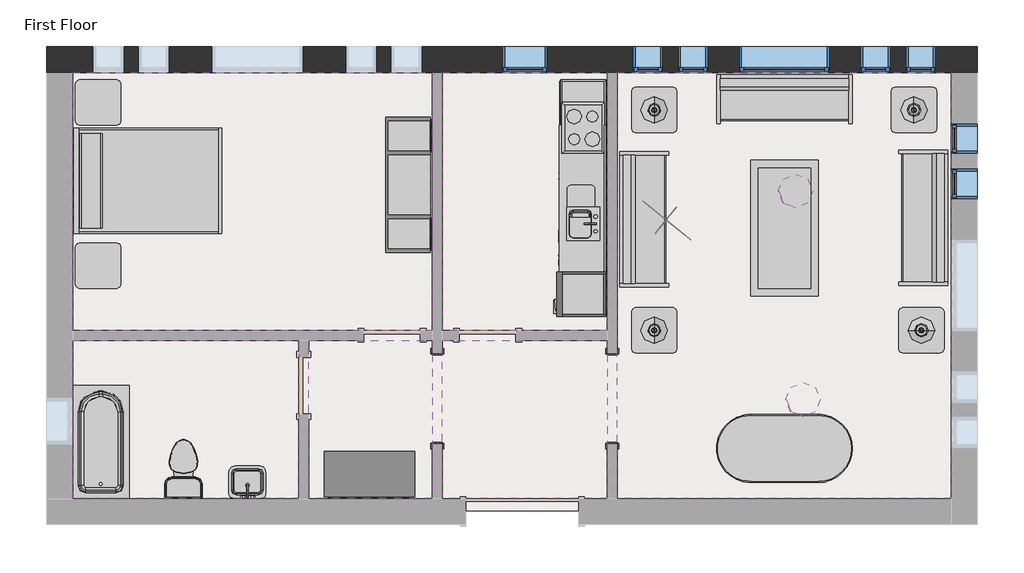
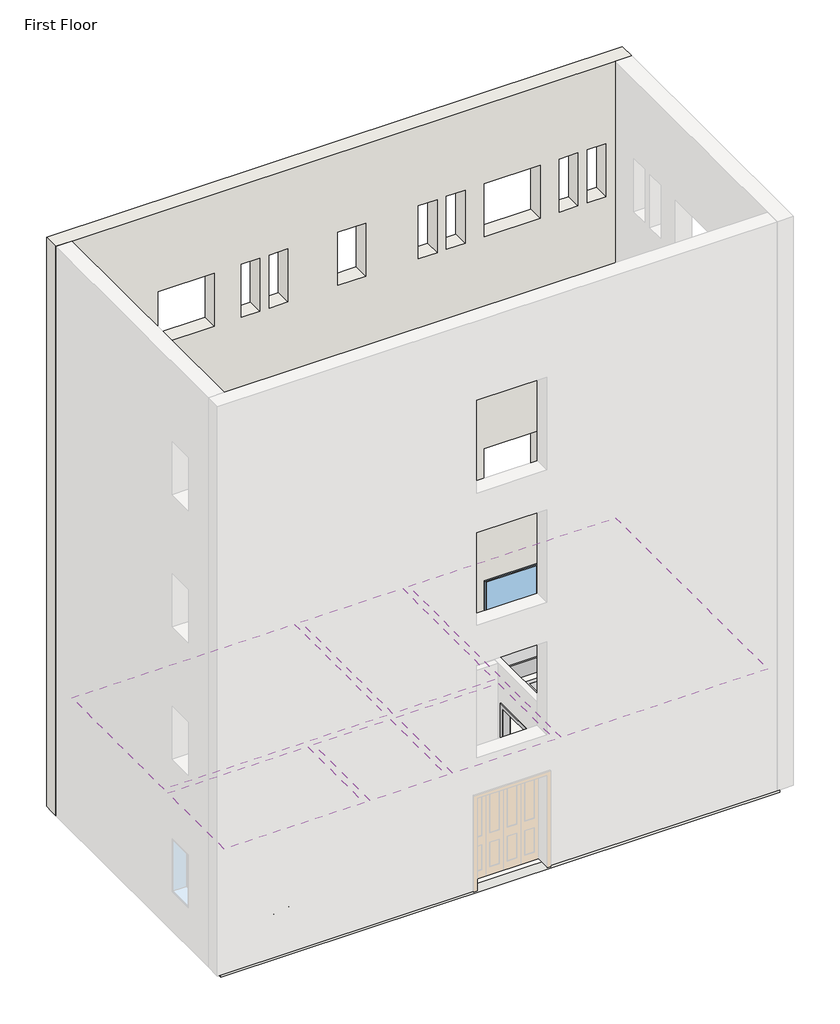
# One storey, part 2 of 2: 15 furniture elements, 8 windows, 7 proxies, 6 coverings, 6 light fixtures, 4 flow terminals, 1 slab, 1 wall.
"""IFC4 building model written with IfcOpenShell, lengths in millimetres."""

from ifc_helpers import new_model, si_unit, frame, origin, place, context, project, spatial, polyline, outline, extrude, faceted_brep, transform, mapped, element, save
from components import m_cook_top_4_unit2_0615_x_500mm_249f3515, m_dishwasher_610_x_610_x_875mm_54ecfc4c, m_kitchenette_medium_2591_ce898a11, m_passage_opening_cased_1220_x_2134mm_87a8d9c2, m_rpc_female_c3b5a3e1, m_refrigerator_600_x_660mm_a466bf94, m_sink_kitchen_island_450_x_450mm_f969cf2d, m_sink_vanity_square_500_x_440mm_1e229b74, m_toilet_domestic_3d_m_toilet_domestic_3d_5cb52bd4, m_toilet_domestic_3d_m_toilet_domestic_3d_183bbd19, m_tub_rectangular_3d_m_tub_rectangular_3d_3a981ad5, m_bed_shaker_1422_x_1981mm_double_096e7f55, m_counter_top_w_sink_hole_600mm_depth_5db41418, m_dresser_1220_x_1525_x_0610mm_18e1f140, m_entertainment_center_1830_x_1830_x_0610mm_f77a9b93, m_sofa_1830mm_58d08fc1, m_table_coffee_0915_x_1830_x_0457mm_134cd960, m_table_dining_oval_0915_x_1830mm_a7cfbe21, m_table_end_cb6ea12e, m_pendant_light_disk_100w_120v_a7a090af, m_table_lamp_standard_60w_120v_6e8cd8b1, m_fixed_0406_x_1220mm_57fee329, m_fixed_0406_x_1220mm_85c28f40, m_fixed_0610_x_1220mm_2c28ef1d, m_fixed_1220_x_1220mm_e08ff7af

model = new_model("IFC4")

# Units and contexts
model_context = context("Model", 3, world=origin())
ifc_project = project(units=[si_unit("LENGTHUNIT", "METRE", prefix="MILLI")], contexts=[model_context])

# Site, building, storey
site = spatial("IfcSite", under=ifc_project)
building = spatial("IfcBuilding", under=site)
storey = spatial("IfcBuildingStorey", under=building, Name="First Floor", Elevation=0.0)

# Proxies
placement = place(None, origin())
m_cook_top_4_unit2_0615_x_500mm_shape = m_cook_top_4_unit2_0615_x_500mm_249f3515(model_context)
element("IfcBuildingElementProxy", 1, Name="M_Cook Top-4 Unit2 : 0615 x 500mm", ObjectType="M_Cook Top-4 Unit2 : 0615 x 500mm", at=placement, inside=storey, context=model_context, shape_type="MappedRepresentation", body=[
    mapped(m_cook_top_4_unit2_0615_x_500mm_shape, transform((-8054.9916203, 1658.804661, 0.0), x_axis=(0.0, -1.0, 0.0), y_axis=(1.0, 0.0, 0.0), z_axis=(0.0, 0.0, 1.0))),
])
m_dishwasher_610_x_610_x_875mm_shape = m_dishwasher_610_x_610_x_875mm_54ecfc4c(model_context)
element("IfcBuildingElementProxy", 2, Name="M_Dishwasher : 610 x 610 x 875mm", ObjectType="M_Dishwasher : 610 x 610 x 875mm", at=placement, inside=storey, context=model_context, shape_type="MappedRepresentation", body=[
    mapped(m_dishwasher_610_x_610_x_875mm_shape, transform((-8321.6411851, 403.0721295, 0.0), x_axis=(0.0, -1.0, 0.0), y_axis=(1.0, 0.0, 0.0), z_axis=(0.0, 0.0, 1.0))),
])
m_kitchenette_medium_2591_shape = m_kitchenette_medium_2591_ce898a11(model_context)
element("IfcBuildingElementProxy", 3, Name="M_Kitchenette - Medium : 2591", ObjectType="M_Kitchenette - Medium : 2591", at=placement, inside=storey, context=model_context, shape_type="MappedRepresentation", body=[
    mapped(m_kitchenette_medium_2591_shape, transform((-7749.9916203, 1029.7923659, 0.0), x_axis=(0.0, -1.0, 0.0), y_axis=(1.0, 0.0, 0.0), z_axis=(0.0, 0.0, 1.0))),
])
m_passage_opening_cased_1220_x_2134mm_shape = m_passage_opening_cased_1220_x_2134mm_87a8d9c2(model_context)
element("IfcBuildingElementProxy", 4, Name="M_Passage Opening-Cased : 1220 x 2134mm", ObjectType="M_Passage Opening-Cased : 1220 x 2134mm", at=placement, inside=storey, context=model_context, shape_type="MappedRepresentation", body=[
    mapped(m_passage_opening_cased_1220_x_2134mm_shape, transform((-7665.3416203, -1982.6925047, 0.0), x_axis=(0.0, 1.0, 0.0), y_axis=(-1.0, 0.0, 0.0), z_axis=(0.0, 0.0, 1.0))),
])
element("IfcBuildingElementProxy", 5, Name="M_Passage Opening-Cased : 1220 x 2134mm", ObjectType="M_Passage Opening-Cased : 1220 x 2134mm", at=placement, inside=storey, context=model_context, shape_type="MappedRepresentation", body=[
    mapped(m_passage_opening_cased_1220_x_2134mm_shape, transform((-10019.0916203, -1999.0698181, 0.0), x_axis=(0.0, -1.0, 0.0), y_axis=(1.0, 0.0, 0.0), z_axis=(0.0, 0.0, 1.0))),
])
m_rpc_female_shape = m_rpc_female_c3b5a3e1(model_context)
element("IfcBuildingElementProxy", 6, Name="M_RPC Female : Cynthia", ObjectType="M_RPC Female : Cynthia", at=placement, inside=storey, context=model_context, shape_type="MappedRepresentation", body=[
    mapped(m_rpc_female_shape, transform((-6817.8815242, 314.0517006, 0.0), x_axis=(-0.6293203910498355, -0.7771459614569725, 0.0), y_axis=(0.7771459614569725, -0.6293203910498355, 0.0), z_axis=(0.0, 0.0, 1.0))),
])
m_refrigerator_600_x_660mm_shape = m_refrigerator_600_x_660mm_a466bf94(model_context)
element("IfcBuildingElementProxy", 7, Name="M_Refrigerator : 600 x 660mm", ObjectType="M_Refrigerator : 600 x 660mm", at=placement, inside=storey, context=model_context, shape_type="MappedRepresentation", body=[
    mapped(m_refrigerator_600_x_660mm_shape, transform((-8046.2067105, -638.2464817, 0.0), x_axis=(0.0, -1.0, 0.0), y_axis=(1.0, 0.0, 0.0), z_axis=(0.0, 0.0, 1.0))),
])

# Coverings
element("IfcCovering", 8, ObjectType="GWB on Metal stud", at=placement, inside=storey, context=model_context, shape_type="SweptSolid", body=[
    extrude(outline(polyline([(-14935.3416203, 2406.1188386), (-10086.8416203, 2406.1188386), (-10086.8416203, -1070.3811614), (-14935.3416203, -1070.3811614), (-14935.3416203, 2406.1188386)])), frame((0.0, 0.0, 2590.0), z_axis=(0.0, 0.0, 1.0), x_axis=(1.0, 0.0, 0.0)), (0.0, 0.0, 1.0), 57.0),
])
element("IfcCovering", 9, ObjectType="GWB on Metal stud", at=placement, inside=storey, context=model_context, shape_type="SweptSolid", body=[
    extrude(outline(polyline([(-9951.3416203, -1070.3811614), (-9951.3416203, 2406.1188386), (-7733.0916203, 2406.1188386), (-7733.0916203, -1070.3811614), (-9951.3416203, -1070.3811614)])), frame((0.0, 0.0, 2590.0), z_axis=(0.0, 0.0, 1.0), x_axis=(1.0, 0.0, 0.0)), (0.0, 0.0, 1.0), 57.0),
])
element("IfcCovering", 10, ObjectType="GWB on Metal stud", at=placement, inside=storey, context=model_context, shape_type="SweptSolid", body=[
    extrude(outline(polyline([(-7597.5916203, -3339.8811614), (-7597.5916203, 2406.1188386), (-3093.3416203, 2406.1188386), (-3093.3416203, -3339.8811614), (-7597.5916203, -3339.8811614)])), frame((0.0, 0.0, 2590.0), z_axis=(0.0, 0.0, 1.0), x_axis=(1.0, 0.0, 0.0)), (0.0, 0.0, 1.0), 57.0),
])
element("IfcCovering", 11, ObjectType="GWB on Metal stud", at=placement, inside=storey, context=model_context, shape_type="SweptSolid", body=[
    extrude(outline(polyline([(-7733.0916203, -3339.8811614), (-9951.3416203, -3339.8811614), (-9951.3416203, -1205.8811614), (-7733.0916203, -1205.8811614), (-7733.0916203, -3339.8811614)])), frame((0.0, 0.0, 2590.0), z_axis=(0.0, 0.0, 1.0), x_axis=(1.0, 0.0, 0.0)), (0.0, 0.0, 1.0), 57.0),
])
element("IfcCovering", 12, ObjectType="GWB on Metal stud", at=placement, inside=storey, context=model_context, shape_type="SweptSolid", body=[
    extrude(outline(polyline([(-11887.3416203, -1205.8811614), (-11887.3416203, -3339.8811614), (-14935.3416203, -3339.8811614), (-14935.3416203, -1205.8811614), (-11887.3416203, -1205.8811614)])), frame((0.0, 0.0, 2590.0), z_axis=(0.0, 0.0, 1.0), x_axis=(1.0, 0.0, 0.0)), (0.0, 0.0, 1.0), 57.0),
])
element("IfcCovering", 13, ObjectType="GWB on Metal stud", at=placement, inside=storey, context=model_context, shape_type="SweptSolid", body=[
    extrude(outline(polyline([(-10086.8416203, -3339.8811614), (-11751.8416203, -3339.8811614), (-11751.8416203, -1205.8811614), (-10086.8416203, -1205.8811614), (-10086.8416203, -3339.8811614)])), frame((0.0, 0.0, 2590.0), z_axis=(0.0, 0.0, 1.0), x_axis=(1.0, 0.0, 0.0)), (0.0, 0.0, 1.0), 57.0),
])

# Flow terminals
m_sink_kitchen_island_450_x_450mm_shape = m_sink_kitchen_island_450_x_450mm_f969cf2d(model_context)
element("IfcFlowTerminal", 14, ObjectType="M_Sink Kitchen-Island : 450 x 450mm", at=placement, inside=storey, context=model_context, shape_type="MappedRepresentation", body=[
    mapped(m_sink_kitchen_island_450_x_450mm_shape, transform((-8057.3370214, 378.9939015, 0.0), x_axis=(0.0, -1.0, 0.0), y_axis=(1.0, 0.0, 0.0), z_axis=(0.0, 0.0, 1.0))),
])
m_sink_vanity_square_500_x_440mm_shape = m_sink_vanity_square_500_x_440mm_1e229b74(model_context)
element("IfcFlowTerminal", 15, ObjectType="M_Sink Vanity-Square : 500 x 440mm", at=placement, inside=storey, context=model_context, shape_type="MappedRepresentation", body=[
    mapped(m_sink_vanity_square_500_x_440mm_shape, transform((-12563.5523798, -3158.1107603, 0.0), x_axis=(-1.0, 0.0, 0.0), y_axis=(0.0, -1.0, 0.0), z_axis=(0.0, 0.0, 1.0))),
])
m_toilet_domestic_3d_m_toilet_domestic_3d_shape = m_toilet_domestic_3d_m_toilet_domestic_3d_5cb52bd4(model_context)
m_toilet_domestic_3d_m_toilet_domestic_3d_2_shape = m_toilet_domestic_3d_m_toilet_domestic_3d_183bbd19(model_context)
element("IfcFlowTerminal", 16, ObjectType="M_Toilet-Domestic-3D : M_Toilet-Domestic-3D", at=placement, inside=storey, context=model_context, shape_type="MappedRepresentation", body=[
    mapped(m_toilet_domestic_3d_m_toilet_domestic_3d_shape, transform((-13440.7376477, -2845.185134, 0.0), x_axis=(-1.0000000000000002, 0.0, 0.0), y_axis=(0.0, -1.0000000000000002, 0.0), z_axis=(0.0, 0.0, 1.0))),
    mapped(m_toilet_domestic_3d_m_toilet_domestic_3d_2_shape, transform((-13440.7376477, -2845.185134, 0.0), x_axis=(-1.0000000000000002, 0.0, 0.0), y_axis=(0.0, -1.0000000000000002, 0.0), z_axis=(0.0, 0.0, 1.0))),
])
m_tub_rectangular_3d_m_tub_rectangular_3d_shape = m_tub_rectangular_3d_m_tub_rectangular_3d_3a981ad5(model_context)
element("IfcFlowTerminal", 17, ObjectType="M_Tub-Rectangular-3D : M_Tub-Rectangular-3D", at=placement, inside=storey, context=model_context, shape_type="MappedRepresentation", body=[
    mapped(m_tub_rectangular_3d_m_tub_rectangular_3d_shape, transform((-15110.3416203, -2229.2781927, 0.0), x_axis=(0.0, 1.0, 0.0), y_axis=(-1.0, 0.0, 0.0), z_axis=(0.0, 0.0, 1.0))),
])

# Furniture
m_bed_shaker_1422_x_1981mm_double_shape = m_bed_shaker_1422_x_1981mm_double_096e7f55(model_context)
element("IfcFurniture", 18, ObjectType="M_Bed-Shaker : 1422 x 1981mm - Double", at=placement, inside=storey, context=model_context, shape_type="MappedRepresentation", body=[
    mapped(m_bed_shaker_1422_x_1981mm_double_shape, transform((-14905.3416203, 963.9688386, 0.0), x_axis=(0.0, 1.0000000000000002, 0.0), y_axis=(-1.0000000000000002, 0.0, 0.0), z_axis=(0.0, 0.0, 1.0))),
])
m_counter_top_w_sink_hole_600mm_depth_shape = m_counter_top_w_sink_hole_600mm_depth_5db41418(model_context)
element("IfcFurniture", 19, ObjectType="M_Counter Top w Sink Hole : 600mm Depth", at=placement, inside=storey, context=model_context, shape_type="MappedRepresentation", body=[
    mapped(m_counter_top_w_sink_hole_600mm_depth_shape, transform((-7749.9916203, 496.5923659, 0.0), x_axis=(0.0, -1.0, 0.0), y_axis=(1.0, 0.0, 0.0), z_axis=(0.0, 0.0, 1.0))),
])
m_dresser_1220_x_1525_x_0610mm_shape = m_dresser_1220_x_1525_x_0610mm_18e1f140(model_context)
element("IfcFurniture", 20, ObjectType="M_Dresser : 1220 x 1525 x 0610mm", at=placement, inside=storey, context=model_context, shape_type="MappedRepresentation", body=[
    mapped(m_dresser_1220_x_1525_x_0610mm_shape, transform((-10667.6483605, -2647.7182073, 0.0), x_axis=(1.0, 0.0, 0.0), y_axis=(0.0, 1.0, 0.0), z_axis=(0.0, 0.0, 1.0))),
])
m_entertainment_center_1830_x_1830_x_0610mm_shape = m_entertainment_center_1830_x_1830_x_0610mm_f77a9b93(model_context)
element("IfcFurniture", 21, ObjectType="M_Entertainment center : 1830 x 1830 x 0610mm", at=placement, inside=storey, context=model_context, shape_type="MappedRepresentation", body=[
    mapped(m_entertainment_center_1830_x_1830_x_0610mm_shape, transform((-10818.2416203, 891.1188386, 0.0), x_axis=(0.0, 1.0, 0.0), y_axis=(-1.0, 0.0, 0.0), z_axis=(0.0, 0.0, 1.0))),
])
m_sofa_1830mm_shape = m_sofa_1830mm_58d08fc1(model_context)
element("IfcFurniture", 22, ObjectType="M_Sofa : 1830mm", at=placement, inside=storey, context=model_context, shape_type="MappedRepresentation", body=[
    mapped(m_sofa_1830mm_shape, transform((-5413.7121121, 1899.9647403, 0.0), x_axis=(1.0, 0.0, 0.0), y_axis=(0.0, 1.0, 0.0), z_axis=(0.0, 0.0, 1.0))),
])
element("IfcFurniture", 23, ObjectType="M_Sofa : 1830mm", at=placement, inside=storey, context=model_context, shape_type="MappedRepresentation", body=[
    mapped(m_sofa_1830mm_shape, transform((-3617.1736471, 517.2688343, 0.0), x_axis=(0.0, -1.0, 0.0), y_axis=(1.0, 0.0, 0.0), z_axis=(0.0, 0.0, 1.0))),
])
element("IfcFurniture", 24, ObjectType="M_Sofa : 1830mm", at=placement, inside=storey, context=model_context, shape_type="MappedRepresentation", body=[
    mapped(m_sofa_1830mm_shape, transform((-7088.437522, 355.7483468, 0.0), x_axis=(0.0, 1.0, 0.0), y_axis=(-1.0, 0.0, 0.0), z_axis=(0.0, 0.0, 1.0))),
])
m_table_coffee_0915_x_1830_x_0457mm_shape = m_table_coffee_0915_x_1830_x_0457mm_134cd960(model_context)
element("IfcFurniture", 25, ObjectType="M_Table-Coffee : 0915 x 1830 x 0457mm", at=placement, inside=storey, context=model_context, shape_type="MappedRepresentation", body=[
    mapped(m_table_coffee_0915_x_1830_x_0457mm_shape, transform((-5248.1305425, 287.8530719, 0.0), x_axis=(0.0, 1.0, 0.0), y_axis=(-1.0, 0.0, 0.0), z_axis=(0.0, 0.0, 1.0))),
])
m_table_dining_oval_0915_x_1830mm_shape = m_table_dining_oval_0915_x_1830mm_a7cfbe21(model_context)
element("IfcFurniture", 26, ObjectType="M_Table-Dining Oval : 0915 x 1830mm", at=placement, inside=storey, context=model_context, shape_type="MappedRepresentation", body=[
    mapped(m_table_dining_oval_0915_x_1830mm_shape, transform((-4941.5219482, -2305.2828007, 0.0), x_axis=(1.0, 0.0, 0.0), y_axis=(0.0, 1.0, 0.0), z_axis=(0.0, 0.0, 1.0))),
])
m_table_end_shape = m_table_end_cb6ea12e(model_context)
element("IfcFurniture", 27, ObjectType="M_Table-End : 0610 x 0160mm altered height", at=placement, inside=storey, context=model_context, shape_type="MappedRepresentation", body=[
    mapped(m_table_end_shape, transform((-7407.0752506, 1748.7188386, 0.0), x_axis=(1.0, 0.0, 0.0), y_axis=(0.0, 1.0, 0.0), z_axis=(0.0, 0.0, 1.0))),
])
element("IfcFurniture", 28, ObjectType="M_Table-End : 0610 x 0160mm altered height", at=placement, inside=storey, context=model_context, shape_type="MappedRepresentation", body=[
    mapped(m_table_end_shape, transform((-3907.0752506, 1748.7188386, 0.0), x_axis=(1.0, 0.0, 0.0), y_axis=(0.0, 1.0, 0.0), z_axis=(0.0, 0.0, 1.0))),
])
element("IfcFurniture", 29, ObjectType="M_Table-End : 0610 x 0160mm altered height", at=placement, inside=storey, context=model_context, shape_type="MappedRepresentation", body=[
    mapped(m_table_end_shape, transform((-3807.0752506, -1222.7811614, 0.0), x_axis=(1.0, 0.0, 0.0), y_axis=(0.0, 1.0, 0.0), z_axis=(0.0, 0.0, 1.0))),
])
element("IfcFurniture", 30, ObjectType="M_Table-End : 0610 x 0160mm altered height", at=placement, inside=storey, context=model_context, shape_type="MappedRepresentation", body=[
    mapped(m_table_end_shape, transform((-7407.0752506, -1222.7811614, 0.0), x_axis=(1.0, 0.0, 0.0), y_axis=(0.0, 1.0, 0.0), z_axis=(0.0, 0.0, 1.0))),
])
element("IfcFurniture", 31, ObjectType="M_Table-End : 0610 x 0160mm altered height", at=placement, inside=storey, context=model_context, shape_type="MappedRepresentation", body=[
    mapped(m_table_end_shape, transform((-14899.0752506, -351.2811614, 0.0), x_axis=(1.0, 0.0, 0.0), y_axis=(0.0, 1.0, 0.0), z_axis=(0.0, 0.0, 1.0))),
])
element("IfcFurniture", 32, ObjectType="M_Table-End : 0610 x 0160mm altered height", at=placement, inside=storey, context=model_context, shape_type="MappedRepresentation", body=[
    mapped(m_table_end_shape, transform((-14899.0752506, 1848.7188386, 0.0), x_axis=(1.0, 0.0, 0.0), y_axis=(0.0, 1.0, 0.0), z_axis=(0.0, 0.0, 1.0))),
])

# Light fixtures
m_pendant_light_disk_100w_120v_shape = m_pendant_light_disk_100w_120v_a7a090af(model_context)
element("IfcLightFixture", 33, ObjectType="M_Pendant Light - Disk : 100W - 120V", at=placement, inside=storey, context=model_context, shape_type="MappedRepresentation", body=[
    mapped(m_pendant_light_disk_100w_120v_shape, transform((-5193.3416203, 806.1188386, 151.5999938), x_axis=(1.0, 0.0, 0.0), y_axis=(0.0, 1.0, 0.0), z_axis=(0.0, 0.0, 1.0))),
])
element("IfcLightFixture", 34, ObjectType="M_Pendant Light - Disk : 100W - 120V", at=placement, inside=storey, context=model_context, shape_type="MappedRepresentation", body=[
    mapped(m_pendant_light_disk_100w_120v_shape, transform((-5093.3416203, -2005.8811614, 151.5999938), x_axis=(1.0, 0.0, 0.0), y_axis=(0.0, 1.0, 0.0), z_axis=(0.0, 0.0, 1.0))),
])
m_table_lamp_standard_60w_120v_shape = m_table_lamp_standard_60w_120v_6e8cd8b1(model_context)
element("IfcLightFixture", 35, ObjectType="M_Table Lamp - Standard : 60W - 120V", at=placement, inside=storey, context=model_context, shape_type="MappedRepresentation", body=[
    mapped(m_table_lamp_standard_60w_120v_shape, transform((-3498.3416203, -1070.3811614, 381.0), x_axis=(1.0, 0.0, 0.0), y_axis=(0.0, 1.0, 0.0), z_axis=(0.0, 0.0, 1.0))),
])
element("IfcLightFixture", 36, ObjectType="M_Table Lamp - Standard : 60W - 120V", at=placement, inside=storey, context=model_context, shape_type="MappedRepresentation", body=[
    mapped(m_table_lamp_standard_60w_120v_shape, transform((-3598.3416203, 1901.1188386, 381.0), x_axis=(0.0, 1.0000000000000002, 0.0), y_axis=(-1.0000000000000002, 0.0, 0.0), z_axis=(0.0, 0.0, 1.0))),
])
element("IfcLightFixture", 37, ObjectType="M_Table Lamp - Standard : 60W - 120V", at=placement, inside=storey, context=model_context, shape_type="MappedRepresentation", body=[
    mapped(m_table_lamp_standard_60w_120v_shape, transform((-7098.3416203, 1901.1188386, 381.0), x_axis=(0.0, 1.0000000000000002, 0.0), y_axis=(-1.0000000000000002, 0.0, 0.0), z_axis=(0.0, 0.0, 1.0))),
])
element("IfcLightFixture", 38, ObjectType="M_Table Lamp - Standard : 60W - 120V", at=placement, inside=storey, context=model_context, shape_type="MappedRepresentation", body=[
    mapped(m_table_lamp_standard_60w_120v_shape, transform((-7098.3416203, -1070.3811614, 381.0), x_axis=(0.0, 1.0000000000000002, 0.0), y_axis=(-1.0000000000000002, 0.0, 0.0), z_axis=(0.0, 0.0, 1.0))),
])

# Slab
element("IfcSlab", 39, ObjectType="160mm Concrete With 50mm Metal Deck", at=placement, inside=storey, context=model_context, shape_type="SweptSolid", body=[
    extrude(outline(polyline([(-2928.3416203, 2571.1188386), (-2928.3416203, -3504.8811614), (-15100.3416203, -3504.8811614), (-15100.3416203, 2571.1188386), (-2928.3416203, 2571.1188386)])), frame((0.0, 0.0, -210.0), z_axis=(0.0, 0.0, 1.0), x_axis=(1.0, 0.0, 0.0)), (0.0, 0.0, 1.0), 210.0),
])

# Wall
element("IfcWall", 40, ObjectType="Exterior - Brick on Mtl. Stud", at=placement, inside=storey, context=model_context, shape_type="Brep", body=[
    faceted_brep([(-15285.3416203, 2406.1188386, 0.0), (-15100.3416203, 2406.1188386, 0.0), (-14935.3416203, 2406.1188386, 0.0), (-10086.8416203, 2406.1188386, 0.0), (-9951.3416203, 2406.1188386, 0.0), (-7733.0916203, 2406.1188386, 0.0), (-7597.5916203, 2406.1188386, 0.0), (-3093.3416203, 2406.1188386, 0.0), (-2928.3416203, 2406.1188386, 0.0), (-2743.3416203, 2406.1188386, 0.0), (-2743.3416203, 2406.1188386, 13107.0), (-3093.3416203, 2406.1188386, 13107.0), (-14935.3416203, 2406.1188386, 13107.0), (-15285.3416203, 2406.1188386, 13107.0), (-8537.1916203, 2406.1188386, 915.0), (-9147.1916203, 2406.1188386, 915.0), (-9147.1916203, 2406.1188386, 2135.0), (-8537.1916203, 2406.1188386, 2135.0), (-11833.3416203, 2406.1188386, 915.0), (-13053.3416203, 2406.1188386, 915.0), (-13053.3416203, 2406.1188386, 2135.0), (-11833.3416203, 2406.1188386, 2135.0), (-4735.4666203, 2406.1188386, 915.0), (-5955.4666203, 2406.1188386, 915.0), (-5955.4666203, 2406.1188386, 2135.0), (-4735.4666203, 2406.1188386, 2135.0), (-14247.3416203, 2406.1188386, 915.0), (-14653.3416203, 2406.1188386, 915.0), (-14653.3416203, 2406.1188386, 2135.0), (-14247.3416203, 2406.1188386, 2135.0), (-13637.3416203, 2406.1188386, 915.0), (-14043.3416203, 2406.1188386, 915.0), (-14043.3416203, 2406.1188386, 2135.0), (-13637.3416203, 2406.1188386, 2135.0), (-11249.3416203, 2406.1188386, 915.0), (-11249.3416203, 2406.1188386, 2135.0), (-10843.3416203, 2406.1188386, 2135.0), (-10843.3416203, 2406.1188386, 915.0), (-10639.3416203, 2406.1188386, 915.0), (-10639.3416203, 2406.1188386, 2135.0), (-10233.3416203, 2406.1188386, 2135.0), (-10233.3416203, 2406.1188386, 915.0), (-6370.3416203, 2406.1188386, 915.0), (-6776.3416203, 2406.1188386, 915.0), (-6776.3416203, 2406.1188386, 2135.0), (-6370.3416203, 2406.1188386, 2135.0), (-6980.3416203, 2406.1188386, 915.0), (-7386.3416203, 2406.1188386, 915.0), (-7386.3416203, 2406.1188386, 2135.0), (-6980.3416203, 2406.1188386, 2135.0), (-4320.5916203, 2406.1188386, 915.0), (-4320.5916203, 2406.1188386, 2135.0), (-3914.5916203, 2406.1188386, 2135.0), (-3914.5916203, 2406.1188386, 915.0), (-3710.5916203, 2406.1188386, 915.0), (-3710.5916203, 2406.1188386, 2135.0), (-3304.5916203, 2406.1188386, 2135.0), (-3304.5916203, 2406.1188386, 915.0), (-4320.5916203, 2406.1188386, 10059.0), (-4320.5916203, 2406.1188386, 11279.0), (-3914.5916203, 2406.1188386, 11279.0), (-3914.5916203, 2406.1188386, 10059.0), (-3710.5916203, 2406.1188386, 10059.0), (-3710.5916203, 2406.1188386, 11279.0), (-3304.5916203, 2406.1188386, 11279.0), (-3304.5916203, 2406.1188386, 10059.0), (-6370.3416203, 2406.1188386, 10059.0), (-6776.3416203, 2406.1188386, 10059.0), (-6776.3416203, 2406.1188386, 11279.0), (-6370.3416203, 2406.1188386, 11279.0), (-6980.3416203, 2406.1188386, 10059.0), (-7386.3416203, 2406.1188386, 10059.0), (-7386.3416203, 2406.1188386, 11279.0), (-6980.3416203, 2406.1188386, 11279.0), (-11249.3416203, 2406.1188386, 10059.0), (-11249.3416203, 2406.1188386, 11279.0), (-10843.3416203, 2406.1188386, 11279.0), (-10843.3416203, 2406.1188386, 10059.0), (-10639.3416203, 2406.1188386, 10059.0), (-10639.3416203, 2406.1188386, 11279.0), (-10233.3416203, 2406.1188386, 11279.0), (-10233.3416203, 2406.1188386, 10059.0), (-13637.3416203, 2406.1188386, 10059.0), (-14043.3416203, 2406.1188386, 10059.0), (-14043.3416203, 2406.1188386, 11279.0), (-13637.3416203, 2406.1188386, 11279.0), (-14247.3416203, 2406.1188386, 10059.0), (-14653.3416203, 2406.1188386, 10059.0), (-14653.3416203, 2406.1188386, 11279.0), (-14247.3416203, 2406.1188386, 11279.0), (-4735.4666203, 2406.1188386, 10059.0), (-5955.4666203, 2406.1188386, 10059.0), (-5955.4666203, 2406.1188386, 11279.0), (-4735.4666203, 2406.1188386, 11279.0), (-11833.3416203, 2406.1188386, 10059.0), (-13053.3416203, 2406.1188386, 10059.0), (-13053.3416203, 2406.1188386, 11279.0), (-11833.3416203, 2406.1188386, 11279.0), (-8537.1916203, 2406.1188386, 10059.0), (-9147.1916203, 2406.1188386, 10059.0), (-9147.1916203, 2406.1188386, 11279.0), (-8537.1916203, 2406.1188386, 11279.0), (-4320.5916203, 2406.1188386, 3963.0), (-4320.5916203, 2406.1188386, 5183.0), (-3914.5916203, 2406.1188386, 5183.0), (-3914.5916203, 2406.1188386, 3963.0), (-3710.5916203, 2406.1188386, 3963.0), (-3710.5916203, 2406.1188386, 5183.0), (-3304.5916203, 2406.1188386, 5183.0), (-3304.5916203, 2406.1188386, 3963.0), (-6370.3416203, 2406.1188386, 3963.0), (-6776.3416203, 2406.1188386, 3963.0), (-6776.3416203, 2406.1188386, 5183.0), (-6370.3416203, 2406.1188386, 5183.0), (-6980.3416203, 2406.1188386, 3963.0), (-7386.3416203, 2406.1188386, 3963.0), (-7386.3416203, 2406.1188386, 5183.0), (-6980.3416203, 2406.1188386, 5183.0), (-11249.3416203, 2406.1188386, 3963.0), (-11249.3416203, 2406.1188386, 5183.0), (-10843.3416203, 2406.1188386, 5183.0), (-10843.3416203, 2406.1188386, 3963.0), (-10639.3416203, 2406.1188386, 3963.0), (-10639.3416203, 2406.1188386, 5183.0), (-10233.3416203, 2406.1188386, 5183.0), (-10233.3416203, 2406.1188386, 3963.0), (-13637.3416203, 2406.1188386, 3963.0), (-14043.3416203, 2406.1188386, 3963.0), (-14043.3416203, 2406.1188386, 5183.0), (-13637.3416203, 2406.1188386, 5183.0), (-14247.3416203, 2406.1188386, 3963.0), (-14653.3416203, 2406.1188386, 3963.0), (-14653.3416203, 2406.1188386, 5183.0), (-14247.3416203, 2406.1188386, 5183.0), (-4735.4666203, 2406.1188386, 3963.0), (-5955.4666203, 2406.1188386, 3963.0), (-5955.4666203, 2406.1188386, 5183.0), (-4735.4666203, 2406.1188386, 5183.0), (-11833.3416203, 2406.1188386, 3963.0), (-13053.3416203, 2406.1188386, 3963.0), (-13053.3416203, 2406.1188386, 5183.0), (-11833.3416203, 2406.1188386, 5183.0), (-8537.1916203, 2406.1188386, 3963.0), (-9147.1916203, 2406.1188386, 3963.0), (-9147.1916203, 2406.1188386, 5183.0), (-8537.1916203, 2406.1188386, 5183.0), (-4320.5916203, 2406.1188386, 7011.0), (-4320.5916203, 2406.1188386, 8231.0), (-3914.5916203, 2406.1188386, 8231.0), (-3914.5916203, 2406.1188386, 7011.0), (-3710.5916203, 2406.1188386, 7011.0), (-3710.5916203, 2406.1188386, 8231.0), (-3304.5916203, 2406.1188386, 8231.0), (-3304.5916203, 2406.1188386, 7011.0), (-6370.3416203, 2406.1188386, 7011.0), (-6776.3416203, 2406.1188386, 7011.0), (-6776.3416203, 2406.1188386, 8231.0), (-6370.3416203, 2406.1188386, 8231.0), (-6980.3416203, 2406.1188386, 7011.0), (-7386.3416203, 2406.1188386, 7011.0), (-7386.3416203, 2406.1188386, 8231.0), (-6980.3416203, 2406.1188386, 8231.0), (-11249.3416203, 2406.1188386, 7011.0), (-11249.3416203, 2406.1188386, 8231.0), (-10843.3416203, 2406.1188386, 8231.0), (-10843.3416203, 2406.1188386, 7011.0), (-10639.3416203, 2406.1188386, 7011.0), (-10639.3416203, 2406.1188386, 8231.0), (-10233.3416203, 2406.1188386, 8231.0), (-10233.3416203, 2406.1188386, 7011.0), (-13637.3416203, 2406.1188386, 7011.0), (-14043.3416203, 2406.1188386, 7011.0), (-14043.3416203, 2406.1188386, 8231.0), (-13637.3416203, 2406.1188386, 8231.0), (-14247.3416203, 2406.1188386, 7011.0), (-14653.3416203, 2406.1188386, 7011.0), (-14653.3416203, 2406.1188386, 8231.0), (-14247.3416203, 2406.1188386, 8231.0), (-4735.4666203, 2406.1188386, 7011.0), (-5955.4666203, 2406.1188386, 7011.0), (-5955.4666203, 2406.1188386, 8231.0), (-4735.4666203, 2406.1188386, 8231.0), (-11833.3416203, 2406.1188386, 7011.0), (-13053.3416203, 2406.1188386, 7011.0), (-13053.3416203, 2406.1188386, 8231.0), (-11833.3416203, 2406.1188386, 8231.0), (-8537.1916203, 2406.1188386, 7011.0), (-9147.1916203, 2406.1188386, 7011.0), (-9147.1916203, 2406.1188386, 8231.0), (-8537.1916203, 2406.1188386, 8231.0), (-15285.3416203, 2756.1188386, 0.0), (-15285.3416203, 2756.1188386, 13107.0), (-2743.3416203, 2756.1188386, 13107.0), (-2743.3416203, 2756.1188386, 0.0), (-2928.3416203, 2756.1188386, 0.0), (-15100.3416203, 2756.1188386, 0.0), (-8537.1916203, 2756.1188386, 915.0), (-8537.1916203, 2756.1188386, 2135.0), (-9147.1916203, 2756.1188386, 2135.0), (-9147.1916203, 2756.1188386, 915.0), (-11833.3416203, 2756.1188386, 915.0), (-11833.3416203, 2756.1188386, 2135.0), (-13053.3416203, 2756.1188386, 2135.0), (-13053.3416203, 2756.1188386, 915.0), (-4735.4666203, 2756.1188386, 915.0), (-4735.4666203, 2756.1188386, 2135.0), (-5955.4666203, 2756.1188386, 2135.0), (-5955.4666203, 2756.1188386, 915.0), (-14247.3416203, 2756.1188386, 915.0), (-14247.3416203, 2756.1188386, 2135.0), (-14653.3416203, 2756.1188386, 2135.0), (-14653.3416203, 2756.1188386, 915.0), (-13637.3416203, 2756.1188386, 915.0), (-13637.3416203, 2756.1188386, 2135.0), (-14043.3416203, 2756.1188386, 2135.0), (-14043.3416203, 2756.1188386, 915.0), (-11249.3416203, 2756.1188386, 915.0), (-10843.3416203, 2756.1188386, 915.0), (-10843.3416203, 2756.1188386, 2135.0), (-11249.3416203, 2756.1188386, 2135.0), (-10639.3416203, 2756.1188386, 915.0), (-10233.3416203, 2756.1188386, 915.0), (-10233.3416203, 2756.1188386, 2135.0), (-10639.3416203, 2756.1188386, 2135.0), (-6370.3416203, 2756.1188386, 915.0), (-6370.3416203, 2756.1188386, 2135.0), (-6776.3416203, 2756.1188386, 2135.0), (-6776.3416203, 2756.1188386, 915.0), (-6980.3416203, 2756.1188386, 915.0), (-6980.3416203, 2756.1188386, 2135.0), (-7386.3416203, 2756.1188386, 2135.0), (-7386.3416203, 2756.1188386, 915.0), (-4320.5916203, 2756.1188386, 915.0), (-3914.5916203, 2756.1188386, 915.0), (-3914.5916203, 2756.1188386, 2135.0), (-4320.5916203, 2756.1188386, 2135.0), (-3710.5916203, 2756.1188386, 915.0), (-3304.5916203, 2756.1188386, 915.0), (-3304.5916203, 2756.1188386, 2135.0), (-3710.5916203, 2756.1188386, 2135.0), (-4320.5916203, 2756.1188386, 10059.0), (-3914.5916203, 2756.1188386, 10059.0), (-3914.5916203, 2756.1188386, 11279.0), (-4320.5916203, 2756.1188386, 11279.0), (-3710.5916203, 2756.1188386, 10059.0), (-3304.5916203, 2756.1188386, 10059.0), (-3304.5916203, 2756.1188386, 11279.0), (-3710.5916203, 2756.1188386, 11279.0), (-6370.3416203, 2756.1188386, 10059.0), (-6370.3416203, 2756.1188386, 11279.0), (-6776.3416203, 2756.1188386, 11279.0), (-6776.3416203, 2756.1188386, 10059.0), (-6980.3416203, 2756.1188386, 10059.0), (-6980.3416203, 2756.1188386, 11279.0), (-7386.3416203, 2756.1188386, 11279.0), (-7386.3416203, 2756.1188386, 10059.0), (-11249.3416203, 2756.1188386, 10059.0), (-10843.3416203, 2756.1188386, 10059.0), (-10843.3416203, 2756.1188386, 11279.0), (-11249.3416203, 2756.1188386, 11279.0), (-10639.3416203, 2756.1188386, 10059.0), (-10233.3416203, 2756.1188386, 10059.0), (-10233.3416203, 2756.1188386, 11279.0), (-10639.3416203, 2756.1188386, 11279.0), (-13637.3416203, 2756.1188386, 10059.0), (-13637.3416203, 2756.1188386, 11279.0), (-14043.3416203, 2756.1188386, 11279.0), (-14043.3416203, 2756.1188386, 10059.0), (-14247.3416203, 2756.1188386, 10059.0), (-14247.3416203, 2756.1188386, 11279.0), (-14653.3416203, 2756.1188386, 11279.0), (-14653.3416203, 2756.1188386, 10059.0), (-4735.4666203, 2756.1188386, 10059.0), (-4735.4666203, 2756.1188386, 11279.0), (-5955.4666203, 2756.1188386, 11279.0), (-5955.4666203, 2756.1188386, 10059.0), (-11833.3416203, 2756.1188386, 10059.0), (-11833.3416203, 2756.1188386, 11279.0), (-13053.3416203, 2756.1188386, 11279.0), (-13053.3416203, 2756.1188386, 10059.0), (-8537.1916203, 2756.1188386, 10059.0), (-8537.1916203, 2756.1188386, 11279.0), (-9147.1916203, 2756.1188386, 11279.0), (-9147.1916203, 2756.1188386, 10059.0), (-4320.5916203, 2756.1188386, 3963.0), (-3914.5916203, 2756.1188386, 3963.0), (-3914.5916203, 2756.1188386, 5183.0), (-4320.5916203, 2756.1188386, 5183.0), (-3710.5916203, 2756.1188386, 3963.0), (-3304.5916203, 2756.1188386, 3963.0), (-3304.5916203, 2756.1188386, 5183.0), (-3710.5916203, 2756.1188386, 5183.0), (-6370.3416203, 2756.1188386, 3963.0), (-6370.3416203, 2756.1188386, 5183.0), (-6776.3416203, 2756.1188386, 5183.0), (-6776.3416203, 2756.1188386, 3963.0), (-6980.3416203, 2756.1188386, 3963.0), (-6980.3416203, 2756.1188386, 5183.0), (-7386.3416203, 2756.1188386, 5183.0), (-7386.3416203, 2756.1188386, 3963.0), (-11249.3416203, 2756.1188386, 3963.0), (-10843.3416203, 2756.1188386, 3963.0), (-10843.3416203, 2756.1188386, 5183.0), (-11249.3416203, 2756.1188386, 5183.0), (-10639.3416203, 2756.1188386, 3963.0), (-10233.3416203, 2756.1188386, 3963.0), (-10233.3416203, 2756.1188386, 5183.0), (-10639.3416203, 2756.1188386, 5183.0), (-13637.3416203, 2756.1188386, 3963.0), (-13637.3416203, 2756.1188386, 5183.0), (-14043.3416203, 2756.1188386, 5183.0), (-14043.3416203, 2756.1188386, 3963.0), (-14247.3416203, 2756.1188386, 3963.0), (-14247.3416203, 2756.1188386, 5183.0), (-14653.3416203, 2756.1188386, 5183.0), (-14653.3416203, 2756.1188386, 3963.0), (-4735.4666203, 2756.1188386, 3963.0), (-4735.4666203, 2756.1188386, 5183.0), (-5955.4666203, 2756.1188386, 5183.0), (-5955.4666203, 2756.1188386, 3963.0), (-11833.3416203, 2756.1188386, 3963.0), (-11833.3416203, 2756.1188386, 5183.0), (-13053.3416203, 2756.1188386, 5183.0), (-13053.3416203, 2756.1188386, 3963.0), (-8537.1916203, 2756.1188386, 3963.0), (-8537.1916203, 2756.1188386, 5183.0), (-9147.1916203, 2756.1188386, 5183.0), (-9147.1916203, 2756.1188386, 3963.0), (-4320.5916203, 2756.1188386, 7011.0), (-3914.5916203, 2756.1188386, 7011.0), (-3914.5916203, 2756.1188386, 8231.0), (-4320.5916203, 2756.1188386, 8231.0), (-3710.5916203, 2756.1188386, 7011.0), (-3304.5916203, 2756.1188386, 7011.0), (-3304.5916203, 2756.1188386, 8231.0), (-3710.5916203, 2756.1188386, 8231.0), (-6370.3416203, 2756.1188386, 7011.0), (-6370.3416203, 2756.1188386, 8231.0), (-6776.3416203, 2756.1188386, 8231.0), (-6776.3416203, 2756.1188386, 7011.0), (-6980.3416203, 2756.1188386, 7011.0), (-6980.3416203, 2756.1188386, 8231.0), (-7386.3416203, 2756.1188386, 8231.0), (-7386.3416203, 2756.1188386, 7011.0), (-11249.3416203, 2756.1188386, 7011.0), (-10843.3416203, 2756.1188386, 7011.0), (-10843.3416203, 2756.1188386, 8231.0), (-11249.3416203, 2756.1188386, 8231.0), (-10639.3416203, 2756.1188386, 7011.0), (-10233.3416203, 2756.1188386, 7011.0), (-10233.3416203, 2756.1188386, 8231.0), (-10639.3416203, 2756.1188386, 8231.0), (-13637.3416203, 2756.1188386, 7011.0), (-13637.3416203, 2756.1188386, 8231.0), (-14043.3416203, 2756.1188386, 8231.0), (-14043.3416203, 2756.1188386, 7011.0), (-14247.3416203, 2756.1188386, 7011.0), (-14247.3416203, 2756.1188386, 8231.0), (-14653.3416203, 2756.1188386, 8231.0), (-14653.3416203, 2756.1188386, 7011.0), (-4735.4666203, 2756.1188386, 7011.0), (-4735.4666203, 2756.1188386, 8231.0), (-5955.4666203, 2756.1188386, 8231.0), (-5955.4666203, 2756.1188386, 7011.0), (-11833.3416203, 2756.1188386, 7011.0), (-11833.3416203, 2756.1188386, 8231.0), (-13053.3416203, 2756.1188386, 8231.0), (-13053.3416203, 2756.1188386, 7011.0), (-8537.1916203, 2756.1188386, 7011.0), (-8537.1916203, 2756.1188386, 8231.0), (-9147.1916203, 2756.1188386, 8231.0), (-9147.1916203, 2756.1188386, 7011.0), (-2743.3416203, 2571.1188386, 0.0), (-15285.3416203, 2571.1188386, 0.0), (-15100.3416203, 2571.1188386, 0.0), (-2928.3416203, 2571.1188386, 0.0)], [[[0, 1, 2, 3, 4, 5, 6, 7, 8, 9, 10, 11, 12, 13], [14, 15, 16, 17], [18, 19, 20, 21], [22, 23, 24, 25], [26, 27, 28, 29], [30, 31, 32, 33], [34, 35, 36, 37], [38, 39, 40, 41], [42, 43, 44, 45], [46, 47, 48, 49], [50, 51, 52, 53], [54, 55, 56, 57], [58, 59, 60, 61], [62, 63, 64, 65], [66, 67, 68, 69], [70, 71, 72, 73], [74, 75, 76, 77], [78, 79, 80, 81], [82, 83, 84, 85], [86, 87, 88, 89], [90, 91, 92, 93], [94, 95, 96, 97], [98, 99, 100, 101], [102, 103, 104, 105], [106, 107, 108, 109], [110, 111, 112, 113], [114, 115, 116, 117], [118, 119, 120, 121], [122, 123, 124, 125], [126, 127, 128, 129], [130, 131, 132, 133], [134, 135, 136, 137], [138, 139, 140, 141], [142, 143, 144, 145], [146, 147, 148, 149], [150, 151, 152, 153], [154, 155, 156, 157], [158, 159, 160, 161], [162, 163, 164, 165], [166, 167, 168, 169], [170, 171, 172, 173], [174, 175, 176, 177], [178, 179, 180, 181], [182, 183, 184, 185], [186, 187, 188, 189]], [[190, 191, 192, 193, 194, 195], [196, 197, 198, 199], [200, 201, 202, 203], [204, 205, 206, 207], [208, 209, 210, 211], [212, 213, 214, 215], [216, 217, 218, 219], [220, 221, 222, 223], [224, 225, 226, 227], [228, 229, 230, 231], [232, 233, 234, 235], [236, 237, 238, 239], [240, 241, 242, 243], [244, 245, 246, 247], [248, 249, 250, 251], [252, 253, 254, 255], [256, 257, 258, 259], [260, 261, 262, 263], [264, 265, 266, 267], [268, 269, 270, 271], [272, 273, 274, 275], [276, 277, 278, 279], [280, 281, 282, 283], [284, 285, 286, 287], [288, 289, 290, 291], [292, 293, 294, 295], [296, 297, 298, 299], [300, 301, 302, 303], [304, 305, 306, 307], [308, 309, 310, 311], [312, 313, 314, 315], [316, 317, 318, 319], [320, 321, 322, 323], [324, 325, 326, 327], [328, 329, 330, 331], [332, 333, 334, 335], [336, 337, 338, 339], [340, 341, 342, 343], [344, 345, 346, 347], [348, 349, 350, 351], [352, 353, 354, 355], [356, 357, 358, 359], [360, 361, 362, 363], [364, 365, 366, 367], [368, 369, 370, 371]], [[13, 12, 11, 10, 192, 191]], [[10, 9, 372, 193, 192]], [[0, 13, 191, 190, 373]], [[197, 196, 14, 17]], [[198, 197, 17, 16]], [[199, 198, 16, 15]], [[196, 199, 15, 14]], [[201, 200, 18, 21]], [[202, 201, 21, 20]], [[203, 202, 20, 19]], [[200, 203, 19, 18]], [[205, 204, 22, 25]], [[206, 205, 25, 24]], [[207, 206, 24, 23]], [[204, 207, 23, 22]], [[209, 208, 26, 29]], [[210, 209, 29, 28]], [[211, 210, 28, 27]], [[208, 211, 27, 26]], [[213, 212, 30, 33]], [[214, 213, 33, 32]], [[215, 214, 32, 31]], [[212, 215, 31, 30]], [[35, 34, 216, 219]], [[36, 35, 219, 218]], [[37, 36, 218, 217]], [[34, 37, 217, 216]], [[39, 38, 220, 223]], [[40, 39, 223, 222]], [[41, 40, 222, 221]], [[38, 41, 221, 220]], [[225, 224, 42, 45]], [[226, 225, 45, 44]], [[227, 226, 44, 43]], [[224, 227, 43, 42]], [[229, 228, 46, 49]], [[230, 229, 49, 48]], [[231, 230, 48, 47]], [[228, 231, 47, 46]], [[51, 50, 232, 235]], [[52, 51, 235, 234]], [[53, 52, 234, 233]], [[50, 53, 233, 232]], [[55, 54, 236, 239]], [[56, 55, 239, 238]], [[57, 56, 238, 237]], [[54, 57, 237, 236]], [[1, 0, 373, 374]], [[373, 190, 195, 374]], [[9, 8, 375, 372]], [[195, 194, 375, 374]], [[194, 193, 372, 375]], [[8, 7, 6, 5, 4, 3, 2, 1, 374, 375]], [[59, 58, 240, 243]], [[60, 59, 243, 242]], [[61, 60, 242, 241]], [[58, 61, 241, 240]], [[63, 62, 244, 247]], [[64, 63, 247, 246]], [[65, 64, 246, 245]], [[62, 65, 245, 244]], [[249, 248, 66, 69]], [[250, 249, 69, 68]], [[251, 250, 68, 67]], [[248, 251, 67, 66]], [[253, 252, 70, 73]], [[254, 253, 73, 72]], [[255, 254, 72, 71]], [[252, 255, 71, 70]], [[75, 74, 256, 259]], [[76, 75, 259, 258]], [[77, 76, 258, 257]], [[74, 77, 257, 256]], [[79, 78, 260, 263]], [[80, 79, 263, 262]], [[81, 80, 262, 261]], [[78, 81, 261, 260]], [[265, 264, 82, 85]], [[266, 265, 85, 84]], [[267, 266, 84, 83]], [[264, 267, 83, 82]], [[269, 268, 86, 89]], [[270, 269, 89, 88]], [[271, 270, 88, 87]], [[268, 271, 87, 86]], [[273, 272, 90, 93]], [[274, 273, 93, 92]], [[275, 274, 92, 91]], [[272, 275, 91, 90]], [[277, 276, 94, 97]], [[278, 277, 97, 96]], [[279, 278, 96, 95]], [[276, 279, 95, 94]], [[281, 280, 98, 101]], [[282, 281, 101, 100]], [[283, 282, 100, 99]], [[280, 283, 99, 98]], [[103, 102, 284, 287]], [[104, 103, 287, 286]], [[105, 104, 286, 285]], [[102, 105, 285, 284]], [[107, 106, 288, 291]], [[108, 107, 291, 290]], [[109, 108, 290, 289]], [[106, 109, 289, 288]], [[293, 292, 110, 113]], [[294, 293, 113, 112]], [[295, 294, 112, 111]], [[292, 295, 111, 110]], [[297, 296, 114, 117]], [[298, 297, 117, 116]], [[299, 298, 116, 115]], [[296, 299, 115, 114]], [[119, 118, 300, 303]], [[120, 119, 303, 302]], [[121, 120, 302, 301]], [[118, 121, 301, 300]], [[123, 122, 304, 307]], [[124, 123, 307, 306]], [[125, 124, 306, 305]], [[122, 125, 305, 304]], [[309, 308, 126, 129]], [[310, 309, 129, 128]], [[311, 310, 128, 127]], [[308, 311, 127, 126]], [[313, 312, 130, 133]], [[314, 313, 133, 132]], [[315, 314, 132, 131]], [[312, 315, 131, 130]], [[317, 316, 134, 137]], [[318, 317, 137, 136]], [[319, 318, 136, 135]], [[316, 319, 135, 134]], [[321, 320, 138, 141]], [[322, 321, 141, 140]], [[323, 322, 140, 139]], [[320, 323, 139, 138]], [[325, 324, 142, 145]], [[326, 325, 145, 144]], [[327, 326, 144, 143]], [[324, 327, 143, 142]], [[147, 146, 328, 331]], [[148, 147, 331, 330]], [[149, 148, 330, 329]], [[146, 149, 329, 328]], [[151, 150, 332, 335]], [[152, 151, 335, 334]], [[153, 152, 334, 333]], [[150, 153, 333, 332]], [[337, 336, 154, 157]], [[338, 337, 157, 156]], [[339, 338, 156, 155]], [[336, 339, 155, 154]], [[341, 340, 158, 161]], [[342, 341, 161, 160]], [[343, 342, 160, 159]], [[340, 343, 159, 158]], [[163, 162, 344, 347]], [[164, 163, 347, 346]], [[165, 164, 346, 345]], [[162, 165, 345, 344]], [[167, 166, 348, 351]], [[168, 167, 351, 350]], [[169, 168, 350, 349]], [[166, 169, 349, 348]], [[353, 352, 170, 173]], [[354, 353, 173, 172]], [[355, 354, 172, 171]], [[352, 355, 171, 170]], [[357, 356, 174, 177]], [[358, 357, 177, 176]], [[359, 358, 176, 175]], [[356, 359, 175, 174]], [[361, 360, 178, 181]], [[362, 361, 181, 180]], [[363, 362, 180, 179]], [[360, 363, 179, 178]], [[365, 364, 182, 185]], [[366, 365, 185, 184]], [[367, 366, 184, 183]], [[364, 367, 183, 182]], [[369, 368, 186, 189]], [[370, 369, 189, 188]], [[371, 370, 188, 187]], [[368, 371, 187, 186]]]),
])

# Windows
m_fixed_0406_x_1220mm_shape = m_fixed_0406_x_1220mm_57fee329(model_context)
element("IfcWindow", 41, ObjectType="M_Fixed : 0406 x 1220mm", at=placement, inside=storey, context=model_context, shape_type="MappedRepresentation", body=[
    mapped(m_fixed_0406_x_1220mm_shape, transform((-7183.3416203, 2594.1188386, 0.0), x_axis=(-1.0, 0.0, 0.0), y_axis=(0.0, -1.0, 0.0), z_axis=(0.0, 0.0, 1.0))),
])
element("IfcWindow", 42, ObjectType="M_Fixed : 0406 x 1220mm", at=placement, inside=storey, context=model_context, shape_type="MappedRepresentation", body=[
    mapped(m_fixed_0406_x_1220mm_shape, transform((-6573.3416203, 2594.1188386, 0.0), x_axis=(-1.0, 0.0, 0.0), y_axis=(0.0, -1.0, 0.0), z_axis=(0.0, 0.0, 1.0))),
])
element("IfcWindow", 43, ObjectType="M_Fixed : 0406 x 1220mm", at=placement, inside=storey, context=model_context, shape_type="MappedRepresentation", body=[
    mapped(m_fixed_0406_x_1220mm_shape, transform((-2905.3416203, 1514.1188386, 0.0), x_axis=(0.0, 1.0, 0.0), y_axis=(-1.0, 0.0, 0.0), z_axis=(0.0, 0.0, 1.0))),
])
element("IfcWindow", 44, ObjectType="M_Fixed : 0406 x 1220mm", at=placement, inside=storey, context=model_context, shape_type="MappedRepresentation", body=[
    mapped(m_fixed_0406_x_1220mm_shape, transform((-2905.3416203, 904.1188386, 0.0), x_axis=(0.0, 1.0, 0.0), y_axis=(-1.0, 0.0, 0.0), z_axis=(0.0, 0.0, 1.0))),
])
m_fixed_0406_x_1220mm_2_shape = m_fixed_0406_x_1220mm_85c28f40(model_context)
element("IfcWindow", 45, ObjectType="M_Fixed : 0406 x 1220mm", at=placement, inside=storey, context=model_context, shape_type="MappedRepresentation", body=[
    mapped(m_fixed_0406_x_1220mm_2_shape, transform((-3507.5916203, 2594.1188386, 0.0), x_axis=(1.0, 0.0, 0.0), y_axis=(0.0, 1.0, 0.0), z_axis=(0.0, 0.0, 1.0))),
])
element("IfcWindow", 46, ObjectType="M_Fixed : 0406 x 1220mm", at=placement, inside=storey, context=model_context, shape_type="MappedRepresentation", body=[
    mapped(m_fixed_0406_x_1220mm_2_shape, transform((-4117.5916203, 2594.1188386, 0.0), x_axis=(1.0, 0.0, 0.0), y_axis=(0.0, 1.0, 0.0), z_axis=(0.0, 0.0, 1.0))),
])
m_fixed_0610_x_1220mm_shape = m_fixed_0610_x_1220mm_2c28ef1d(model_context)
element("IfcWindow", 47, ObjectType="M_Fixed : 0610 x 1220mm", at=placement, inside=storey, context=model_context, shape_type="MappedRepresentation", body=[
    mapped(m_fixed_0610_x_1220mm_shape, transform((-8842.1916203, 2594.1188386, 0.0), x_axis=(-1.0, 0.0, 0.0), y_axis=(0.0, -1.0, 0.0), z_axis=(0.0, 0.0, 1.0))),
])
m_fixed_1220_x_1220mm_shape = m_fixed_1220_x_1220mm_e08ff7af(model_context)
element("IfcWindow", 48, ObjectType="M_Fixed : 1220 x 1220mm", at=placement, inside=storey, context=model_context, shape_type="MappedRepresentation", body=[
    mapped(m_fixed_1220_x_1220mm_shape, transform((-5345.4666203, 2594.1188386, 0.0), x_axis=(-1.0, 0.0, 0.0), y_axis=(0.0, -1.0, 0.0), z_axis=(0.0, 0.0, 1.0))),
])

save(model, "model.ifc")
